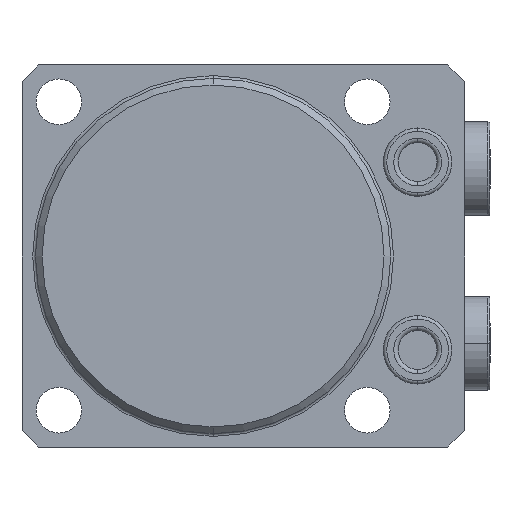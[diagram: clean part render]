
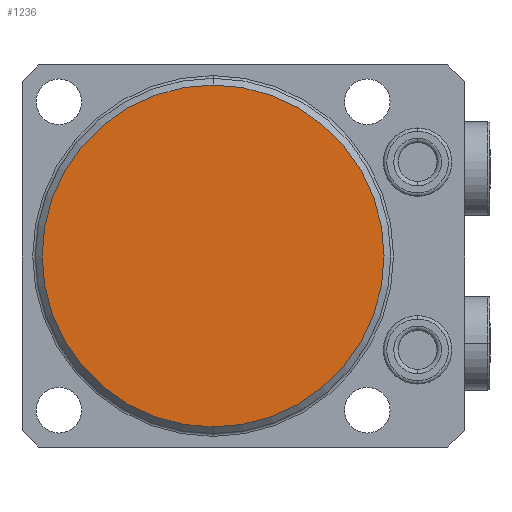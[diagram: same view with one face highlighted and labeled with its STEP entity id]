
A CAD part, front view. The second image highlights one B-rep face of the part: STEP entity #1236.
In plain terms, the highlighted planar face has unit normal (0, -1, 0) as drawn and (0, 1, 0) by its records, which use the part's own axes.
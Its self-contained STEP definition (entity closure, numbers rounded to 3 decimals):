
#271=PLANE('',#4869);
#1236=ADVANCED_FACE('',(#1510),#271,.T.);
#1510=FACE_OUTER_BOUND('',#1790,.F.);
#1790=EDGE_LOOP('',(#2831,#2832));
#2831=ORIENTED_EDGE('',*,*,#4047,.T.);
#2832=ORIENTED_EDGE('',*,*,#3955,.T.);
#3409=VERTEX_POINT('',#7424);
#3410=VERTEX_POINT('',#7425);
#3955=EDGE_CURVE('',#3409,#3410,#4356,.T.);
#4047=EDGE_CURVE('',#3410,#3409,#4375,.T.);
#4356=CIRCLE('',#4833,25.5);
#4375=CIRCLE('',#4868,25.5);
#4833=AXIS2_PLACEMENT_3D('',#7423,#6024,#6025);
#4868=AXIS2_PLACEMENT_3D('',#7687,#6143,#6144);
#4869=AXIS2_PLACEMENT_3D('',#7688,#6145,#6146);
#6024=DIRECTION('',(0.,-1.,0.));
#6025=DIRECTION('',(0.,0.,1.));
#6143=DIRECTION('',(0.,-1.,0.));
#6144=DIRECTION('',(0.,0.,1.));
#6145=DIRECTION('',(0.,1.,0.));
#6146=DIRECTION('',(0.,0.,1.));
#7423=CARTESIAN_POINT('',(0.,-42.5,0.));
#7424=CARTESIAN_POINT('',(0.,-42.5,-25.5));
#7425=CARTESIAN_POINT('',(0.,-42.5,25.5));
#7687=CARTESIAN_POINT('',(0.,-42.5,0.));
#7688=CARTESIAN_POINT('',(0.,-42.5,0.));
